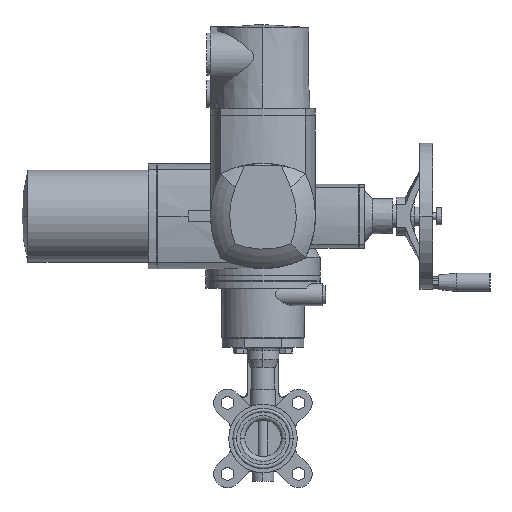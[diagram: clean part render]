
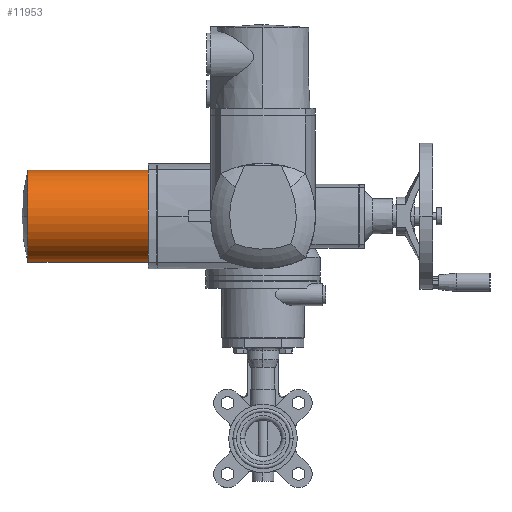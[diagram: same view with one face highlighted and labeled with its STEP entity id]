
A CAD part, top view. The second image highlights one B-rep face of the part: STEP entity #11953.
In plain terms, the highlighted cylindrical face has radius 50.5 mm (diameter 101 mm), a partial arc.
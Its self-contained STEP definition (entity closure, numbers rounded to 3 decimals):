
#544 = DIRECTION ( 'NONE',  ( 1., 0., 0. ) ) ;
#1239 = CYLINDRICAL_SURFACE ( 'NONE', #20710, 50.5 ) ;
#1375 = VERTEX_POINT ( 'NONE', #21778 ) ;
#2264 = EDGE_LOOP ( 'NONE', ( #13381, #22063, #2554, #27324, #5974 ) ) ;
#2443 = LINE ( 'NONE', #2732, #5783 ) ;
#2504 = CIRCLE ( 'NONE', #10711, 50.5 ) ;
#2554 = ORIENTED_EDGE ( 'NONE', *, *, #27865, .T. ) ;
#2635 = VECTOR ( 'NONE', #544, 1000. ) ;
#2732 = CARTESIAN_POINT ( 'NONE',  ( -97.021, -40., 184. ) ) ;
#4921 = CARTESIAN_POINT ( 'NONE',  ( -125.5, -40., 133.5 ) ) ;
#5783 = VECTOR ( 'NONE', #24385, 1000. ) ;
#5817 = CARTESIAN_POINT ( 'NONE',  ( -257.519, -40., 184. ) ) ;
#5974 = ORIENTED_EDGE ( 'NONE', *, *, #8088, .F. ) ;
#6634 = EDGE_CURVE ( 'NONE', #12548, #24304, #2504, .T. ) ;
#7471 = DIRECTION ( 'NONE',  ( -1., 0., 0. ) ) ;
#7832 = DIRECTION ( 'NONE',  ( 1., 0., 0. ) ) ;
#8088 = EDGE_CURVE ( 'NONE', #12548, #1375, #2443, .T. ) ;
#9492 = CARTESIAN_POINT ( 'NONE',  ( -125.5, -40., 83. ) ) ;
#10039 = DIRECTION ( 'NONE',  ( 1., 0., 0. ) ) ;
#10460 = CARTESIAN_POINT ( 'NONE',  ( -97.021, -40., 133.5 ) ) ;
#10711 = AXIS2_PLACEMENT_3D ( 'NONE', #27494, #7832, #16753 ) ;
#10849 = EDGE_CURVE ( 'NONE', #16592, #1375, #25217, .T. ) ;
#11884 = CARTESIAN_POINT ( 'NONE',  ( -257.519, -90.5, 133.5 ) ) ;
#11953 = ADVANCED_FACE ( 'NONE', ( #14301 ), #1239, .T. ) ;
#12548 = VERTEX_POINT ( 'NONE', #5817 ) ;
#13381 = ORIENTED_EDGE ( 'NONE', *, *, #6634, .T. ) ;
#13623 = LINE ( 'NONE', #19911, #2635 ) ;
#14301 = FACE_OUTER_BOUND ( 'NONE', #2264, .T. ) ;
#14580 = VERTEX_POINT ( 'NONE', #15929 ) ;
#15929 = CARTESIAN_POINT ( 'NONE',  ( -257.519, -40., 83. ) ) ;
#16377 = AXIS2_PLACEMENT_3D ( 'NONE', #24738, #24174, #18378 ) ;
#16592 = VERTEX_POINT ( 'NONE', #9492 ) ;
#16753 = DIRECTION ( 'NONE',  ( 0., 0., 1. ) ) ;
#17538 = AXIS2_PLACEMENT_3D ( 'NONE', #4921, #7471, #24718 ) ;
#18378 = DIRECTION ( 'NONE',  ( 0., 0., 1. ) ) ;
#18496 = DIRECTION ( 'NONE',  ( 0., 0., 1. ) ) ;
#19911 = CARTESIAN_POINT ( 'NONE',  ( -97.021, -40., 83. ) ) ;
#20232 = EDGE_CURVE ( 'NONE', #24304, #14580, #20393, .T. ) ;
#20393 = CIRCLE ( 'NONE', #16377, 50.5 ) ;
#20710 = AXIS2_PLACEMENT_3D ( 'NONE', #10460, #10039, #18496 ) ;
#21778 = CARTESIAN_POINT ( 'NONE',  ( -125.5, -40., 184. ) ) ;
#22063 = ORIENTED_EDGE ( 'NONE', *, *, #20232, .T. ) ;
#24174 = DIRECTION ( 'NONE',  ( 1., 0., 0. ) ) ;
#24304 = VERTEX_POINT ( 'NONE', #11884 ) ;
#24385 = DIRECTION ( 'NONE',  ( 1., 0., 0. ) ) ;
#24718 = DIRECTION ( 'NONE',  ( 0., 0., -1. ) ) ;
#24738 = CARTESIAN_POINT ( 'NONE',  ( -257.519, -40., 133.5 ) ) ;
#25217 = CIRCLE ( 'NONE', #17538, 50.5 ) ;
#27324 = ORIENTED_EDGE ( 'NONE', *, *, #10849, .T. ) ;
#27494 = CARTESIAN_POINT ( 'NONE',  ( -257.519, -40., 133.5 ) ) ;
#27865 = EDGE_CURVE ( 'NONE', #14580, #16592, #13623, .T. ) ;
